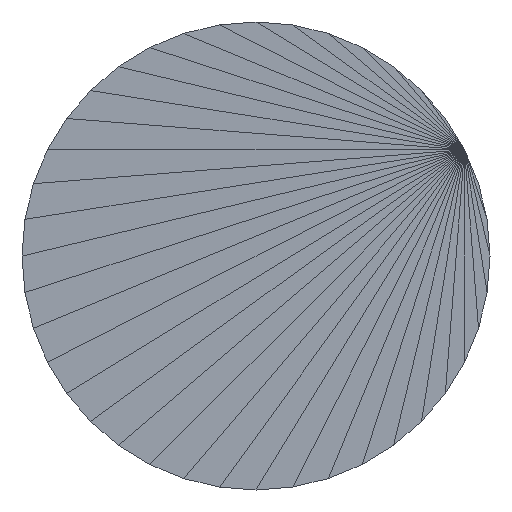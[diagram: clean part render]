
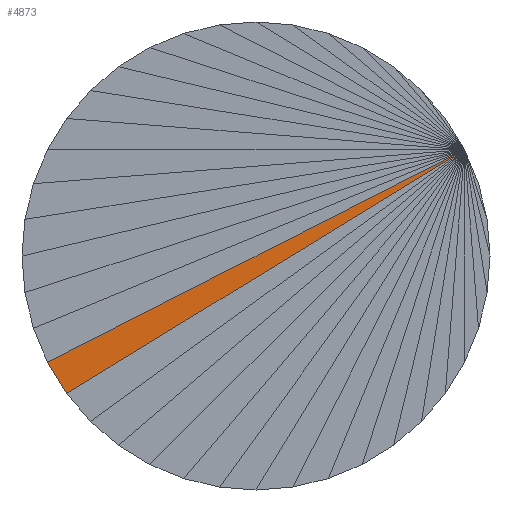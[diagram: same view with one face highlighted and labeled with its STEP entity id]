
A CAD part, front view. The second image highlights one B-rep face of the part: STEP entity #4873.
In plain terms, the highlighted planar face has unit normal (0, -1, 0).
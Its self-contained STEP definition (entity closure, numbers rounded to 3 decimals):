
#1750 = VERTEX_POINT('',#1751);
#1751 = CARTESIAN_POINT('',(-866.18,-73.5,368.244));
#1758 = PLANE('',#1759);
#1759 = AXIS2_PLACEMENT_3D('',#1760,#1761,#1762);
#1760 = CARTESIAN_POINT('',(-866.626,-65.341,
    368.972));
#1761 = DIRECTION('',(-0.853,-0.,-0.522));
#1762 = DIRECTION('',(0.522,0.,-0.853));
#1781 = EDGE_CURVE('',#1750,#1782,#1784,.T.);
#1782 = VERTEX_POINT('',#1783);
#1783 = CARTESIAN_POINT('',(-867.82,-73.5,370.92));
#1784 = SURFACE_CURVE('',#1785,(#1789,#1796),.PCURVE_S1.);
#1785 = LINE('',#1786,#1787);
#1786 = CARTESIAN_POINT('',(-866.18,-73.5,368.244));
#1787 = VECTOR('',#1788,1.);
#1788 = DIRECTION('',(-0.522,0.,0.853));
#1789 = PCURVE('',#1758,#1790);
#1790 = DEFINITIONAL_REPRESENTATION('',(#1791),#1795);
#1791 = LINE('',#1792,#1793);
#1792 = CARTESIAN_POINT('',(0.853,8.159));
#1793 = VECTOR('',#1794,1.);
#1794 = DIRECTION('',(-1.,0.));
#1795 = ( GEOMETRIC_REPRESENTATION_CONTEXT(2) 
PARAMETRIC_REPRESENTATION_CONTEXT() REPRESENTATION_CONTEXT('2D SPACE',''
  ) );
#1796 = PCURVE('',#1797,#1802);
#1797 = PLANE('',#1798);
#1798 = AXIS2_PLACEMENT_3D('',#1799,#1800,#1801);
#1799 = CARTESIAN_POINT('',(-850.249,-73.5,378.963));
#1800 = DIRECTION('',(-0.,-1.,-0.));
#1801 = DIRECTION('',(0.,0.,-1.));
#1802 = DEFINITIONAL_REPRESENTATION('',(#1803),#1806);
#1803 = B_SPLINE_CURVE_WITH_KNOTS('',1,(#1804,#1805),.UNSPECIFIED.,.F.,
  .F.,(2,2),(0.,3.138),.PIECEWISE_BEZIER_KNOTS.);
#1804 = CARTESIAN_POINT('',(10.719,-15.931));
#1805 = CARTESIAN_POINT('',(8.043,-17.571));
#1806 = ( GEOMETRIC_REPRESENTATION_CONTEXT(2) 
PARAMETRIC_REPRESENTATION_CONTEXT() REPRESENTATION_CONTEXT('2D SPACE',''
  ) );
#1983 = PLANE('',#1984);
#1984 = AXIS2_PLACEMENT_3D('',#1985,#1986,#1987);
#1985 = CARTESIAN_POINT('',(-850.985,-73.5,380.408));
#1986 = DIRECTION('',(-0.,-1.,-0.));
#1987 = DIRECTION('',(0.,0.,-1.));
#2031 = PLANE('',#2032);
#2032 = AXIS2_PLACEMENT_3D('',#2033,#2034,#2035);
#2033 = CARTESIAN_POINT('',(-849.3,-73.5,377.649));
#2034 = DIRECTION('',(-0.,-1.,-0.));
#2035 = DIRECTION('',(0.,0.,-1.));
#4311 = VERTEX_POINT('',#4312);
#4312 = CARTESIAN_POINT('',(-832.18,-73.5,389.08));
#4513 = EDGE_CURVE('',#4311,#1750,#4514,.T.);
#4514 = SURFACE_CURVE('',#4515,(#4519,#4526),.PCURVE_S1.);
#4515 = LINE('',#4516,#4517);
#4516 = CARTESIAN_POINT('',(-832.18,-73.5,389.08));
#4517 = VECTOR('',#4518,1.);
#4518 = DIRECTION('',(-0.853,0.,-0.522));
#4519 = PCURVE('',#2031,#4520);
#4520 = DEFINITIONAL_REPRESENTATION('',(#4521),#4525);
#4521 = LINE('',#4522,#4523);
#4522 = CARTESIAN_POINT('',(-11.431,17.12));
#4523 = VECTOR('',#4524,1.);
#4524 = DIRECTION('',(0.522,-0.853));
#4525 = ( GEOMETRIC_REPRESENTATION_CONTEXT(2) 
PARAMETRIC_REPRESENTATION_CONTEXT() REPRESENTATION_CONTEXT('2D SPACE',''
  ) );
#4526 = PCURVE('',#1797,#4527);
#4527 = DEFINITIONAL_REPRESENTATION('',(#4528),#4531);
#4528 = B_SPLINE_CURVE_WITH_KNOTS('',1,(#4529,#4530),.UNSPECIFIED.,.F.,
  .F.,(2,2),(0.,39.877),.PIECEWISE_BEZIER_KNOTS.);
#4529 = CARTESIAN_POINT('',(-10.116,18.069));
#4530 = CARTESIAN_POINT('',(10.719,-15.931));
#4531 = ( GEOMETRIC_REPRESENTATION_CONTEXT(2) 
PARAMETRIC_REPRESENTATION_CONTEXT() REPRESENTATION_CONTEXT('2D SPACE',''
  ) );
#4873 = ADVANCED_FACE('',(#4874),#1797,.T.);
#4874 = FACE_BOUND('',#4875,.T.);
#4875 = EDGE_LOOP('',(#4876,#4896,#4897));
#4876 = ORIENTED_EDGE('',*,*,#4877,.T.);
#4877 = EDGE_CURVE('',#4311,#1782,#4878,.T.);
#4878 = SURFACE_CURVE('',#4879,(#4883,#4890),.PCURVE_S1.);
#4879 = LINE('',#4880,#4881);
#4880 = CARTESIAN_POINT('',(-832.18,-73.5,389.08));
#4881 = VECTOR('',#4882,1.);
#4882 = DIRECTION('',(-0.891,0.,-0.454));
#4883 = PCURVE('',#1797,#4884);
#4884 = DEFINITIONAL_REPRESENTATION('',(#4885),#4889);
#4885 = LINE('',#4886,#4887);
#4886 = CARTESIAN_POINT('',(-10.116,18.069));
#4887 = VECTOR('',#4888,1.);
#4888 = DIRECTION('',(0.454,-0.891));
#4889 = ( GEOMETRIC_REPRESENTATION_CONTEXT(2) 
PARAMETRIC_REPRESENTATION_CONTEXT() REPRESENTATION_CONTEXT('2D SPACE',''
  ) );
#4890 = PCURVE('',#1983,#4891);
#4891 = DEFINITIONAL_REPRESENTATION('',(#4892),#4895);
#4892 = B_SPLINE_CURVE_WITH_KNOTS('',1,(#4893,#4894),.UNSPECIFIED.,.F.,
  .F.,(2,2),(0.,40.),.PIECEWISE_BEZIER_KNOTS.);
#4893 = CARTESIAN_POINT('',(-8.672,18.805));
#4894 = CARTESIAN_POINT('',(9.488,-16.835));
#4895 = ( GEOMETRIC_REPRESENTATION_CONTEXT(2) 
PARAMETRIC_REPRESENTATION_CONTEXT() REPRESENTATION_CONTEXT('2D SPACE',''
  ) );
#4896 = ORIENTED_EDGE('',*,*,#1781,.F.);
#4897 = ORIENTED_EDGE('',*,*,#4513,.F.);
